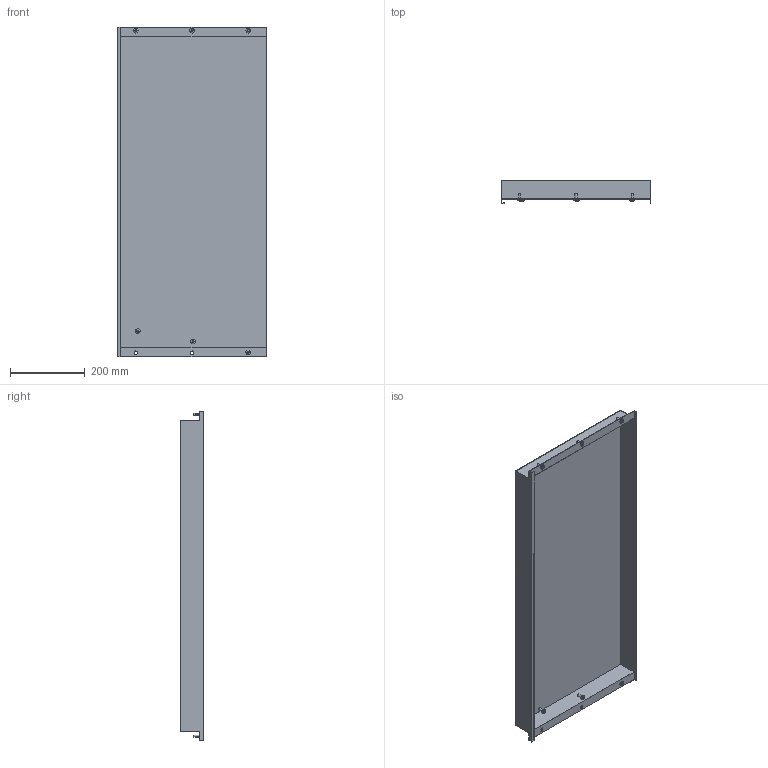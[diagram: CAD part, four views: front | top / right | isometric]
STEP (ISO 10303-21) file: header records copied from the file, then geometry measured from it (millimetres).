
FILE_DESCRIPTION (( 'STEP AP214' ), '1' );
FILE_NAME ('FO-00-PVSU-040-100 Ïëàñòðîí âíóòðåííèé óãëóáëåííûé 400õ1000õ50.STEP', '2025-09-30T08:28:40', ( '' ), ( '' ), 'SwSTEP 2.0', 'SolidWorks 2023', '' );
FILE_SCHEMA (( 'AUTOMOTIVE_DESIGN' ));
Length unit declared in the file: millimetre
Products named in the file (3): Винты М6х16 40-100; FO-00-PVSU-040-100 Пластрон внутренний углубленный 400х1000х50
Assembly tree (3 placements, depth 2):
  FO-00-PVSU-040-100 Пластрон внутренний углубленный 400х1000х50
    FO-00-PVSU-040-100 Пластрон внутренний углубленный 400х1000х50
    Винты М6х16 40-100  x2
Bounding box: 398 x 62.5 x 879 mm (x, y, z)
Volume: 698323.5 mm3; surface area: 998664.2 mm2
Topology: 7 solids, 7 shells, 214 faces, 558 edges, 364 vertices
Faces by surface type: cylinder 132, plane 52, cone 18, bspline 12
Entity records: 4464 total; most frequent: CARTESIAN_POINT 1022, ORIENTED_EDGE 708, DIRECTION 692, EDGE_CURVE 354, AXIS2_PLACEMENT_3D 256, VERTEX_POINT 232, LINE 180, VECTOR 180
